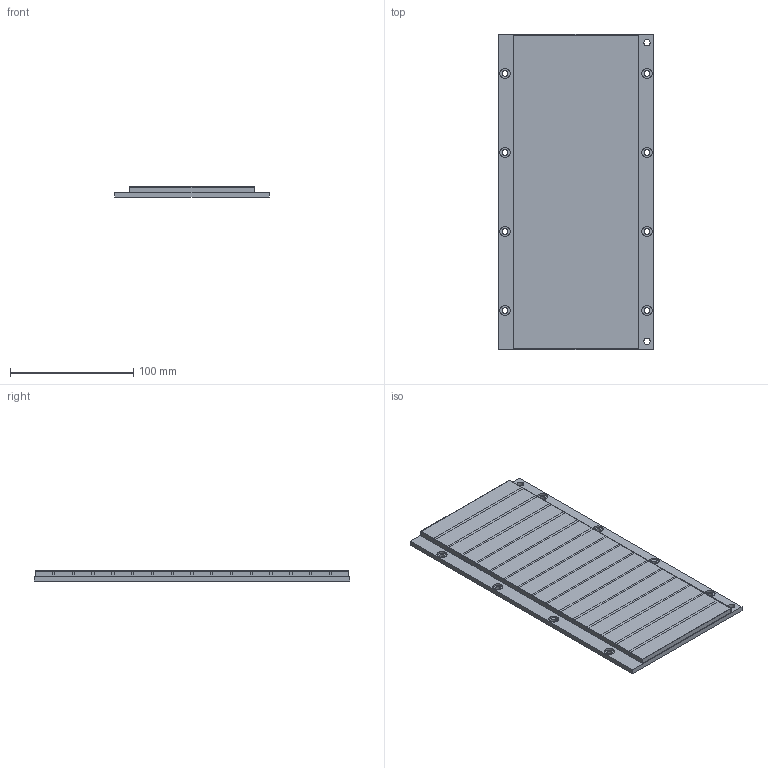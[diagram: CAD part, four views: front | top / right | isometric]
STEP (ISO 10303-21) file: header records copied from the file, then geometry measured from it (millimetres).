
FILE_DESCRIPTION((''),'2;1');
FILE_NAME('MCD100_256_001_','2007-01-13T',('Sendhil_kk'),('Kollmorgen'),'PRO/ENGINEER BY PARAMETRIC TECHNOLOGY CORPORATION, 2006080','PRO/ENGINEER BY PARAMETRIC TECHNOLOGY CORPORATION, 2006080','');
FILE_SCHEMA(('CONFIG_CONTROL_DESIGN'));
Length unit declared in the file: millimetre
Products named in the file (1): MCD100_256_001_
Bounding box: 125 x 255.3 x 8.25 mm (x, y, z)
Volume: 222523.9 mm3; surface area: 137592.5 mm2
Topology: 1 solids, 1 shells, 138 faces, 336 edges, 224 vertices
Faces by surface type: plane 102, cylinder 36
Entity records: 4114 total; most frequent: CARTESIAN_POINT 698, DIRECTION 684, ORIENTED_EDGE 672, EDGE_CURVE 336, VECTOR 264, LINE 264, VERTEX_POINT 224, AXIS2_PLACEMENT_3D 210
